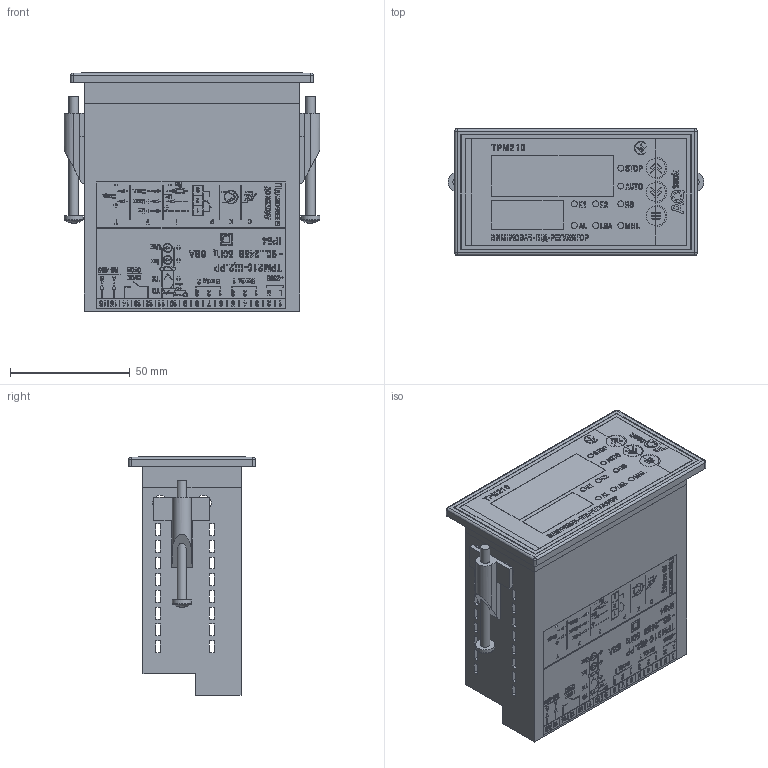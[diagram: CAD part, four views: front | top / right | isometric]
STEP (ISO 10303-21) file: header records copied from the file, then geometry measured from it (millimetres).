
FILE_DESCRIPTION (( 'STEP AP214' ), '1' );
FILE_NAME ('ﾒﾐﾌ210-ﾙ2.ﾐﾐ [U03].STEP', '2025-02-27T10:50:33', ( '' ), ( '' ), 'SwSTEP 2.0', 'SolidWorks 2019', '' );
FILE_SCHEMA (( 'AUTOMOTIVE_DESIGN' ));
Length unit declared in the file: millimetre
Products named in the file (9): 2EDGKR-5.08-16; Êð³ïëåííÿ ï³ä âèíò Ì4; AQ_TRM210_002F01M; óù³ëüíþâà÷ (Ù2); Êîðïóñ ÒÐÌ210-Ù2.ÐÐ [U03]; BoardsPCBﾒﾐﾌ500_ﾙ2; ﾒﾐﾌ210-ﾙ2.ﾐﾐ [U03]; 2EDGKR-5.08-1p; M4 x 0.7 x 40 Type I Cross Recessed PHMS
Assembly tree (25 placements, depth 3):
  ﾒﾐﾌ210-ﾙ2.ﾐﾐ [U03]
    2EDGKR-5.08-16
      2EDGKR-5.08-1p  x16
    óù³ëüíþâà÷ (Ù2)
    Êîðïóñ ÒÐÌ210-Ù2.ÐÐ [U03]
    Êð³ïëåííÿ ï³ä âèíò Ì4  x2
    M4 x 0.7 x 40 Type I Cross Recessed PHMS  x2
    AQ_TRM210_002F01M
    BoardsPCBﾒﾐﾌ500_ﾙ2
Bounding box: 107 x 53 x 99.63 mm (x, y, z)
Volume: 93971.4 mm3; surface area: 128430.5 mm2
Topology: 319 solids, 319 shells, 5781 faces, 15228 edges, 10104 vertices
Faces by surface type: plane 4062, bspline 1425, cylinder 286, sphere 6, torus 2
Full cylindrical faces by diameter (mm): 1.274 x1, 2.5 x16, 3.268 x2, 4 x2, 8 x5
Entity records: 211622 total; most frequent: CARTESIAN_POINT 45963, ORIENTED_EDGE 26666, DIRECTION 18030, EDGE_CURVE 13333, LINE 10218, VECTOR 10218, VERTEX_POINT 8895, EDGE_LOOP 5634
